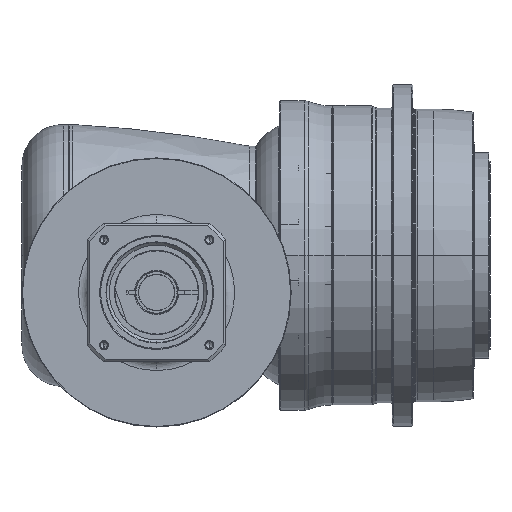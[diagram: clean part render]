
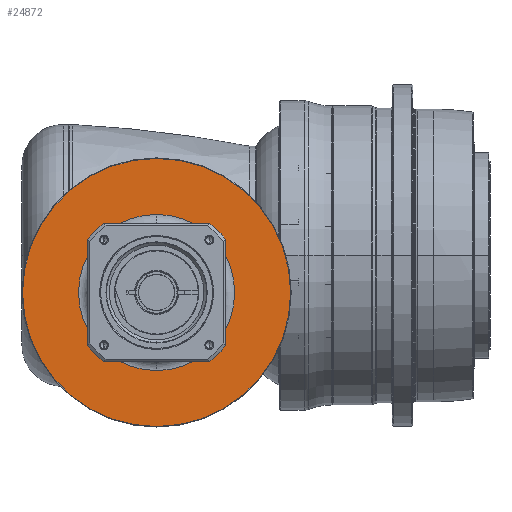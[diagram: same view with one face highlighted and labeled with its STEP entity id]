
A CAD part, front view. The second image highlights one B-rep face of the part: STEP entity #24872.
In plain terms, the highlighted planar face has unit normal (0, -1, 0) as drawn and (1, 0, 0) by its records, which use the part's own axes.
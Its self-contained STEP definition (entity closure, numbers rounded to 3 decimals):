
#22940=CARTESIAN_POINT('',(-11.5,0.,0.));
#22941=DIRECTION('',(-1.,0.,0.));
#22942=DIRECTION('',(0.,-1.,0.));
#22943=AXIS2_PLACEMENT_3D('',#22940,#22941,#22942);
#22945=CARTESIAN_POINT('',(-11.5,0.,0.));
#22946=DIRECTION('',(-1.,0.,0.));
#22947=DIRECTION('',(0.,1.,0.));
#22948=AXIS2_PLACEMENT_3D('',#22945,#22946,#22947);
#22950=CARTESIAN_POINT('',(-11.5,0.,0.));
#22951=DIRECTION('',(-1.,0.,0.));
#22952=DIRECTION('',(0.,-1.,0.));
#22953=AXIS2_PLACEMENT_3D('',#22950,#22951,#22952);
#22955=CARTESIAN_POINT('',(-11.5,0.,0.));
#22956=DIRECTION('',(-1.,0.,0.));
#22957=DIRECTION('',(0.,1.,0.));
#22958=AXIS2_PLACEMENT_3D('',#22955,#22956,#22957);
#23559=CARTESIAN_POINT('',(-11.5,-130.5,0.));
#23560=CARTESIAN_POINT('',(-11.5,130.5,0.));
#23561=VERTEX_POINT('',#23559);
#23562=VERTEX_POINT('',#23560);
#23599=CARTESIAN_POINT('',(-11.5,-76.,0.));
#23600=CARTESIAN_POINT('',(-11.5,76.,0.));
#23601=VERTEX_POINT('',#23599);
#23602=VERTEX_POINT('',#23600);
#24857=CARTESIAN_POINT('',(-11.5,0.,0.));
#24858=DIRECTION('',(1.,0.,0.));
#24859=DIRECTION('',(0.,-1.,0.));
#24860=AXIS2_PLACEMENT_3D('',#24857,#24858,#24859);
#24861=PLANE('',#24860);
#24862=ORIENTED_EDGE('',*,*,#24813,.T.);
#24863=ORIENTED_EDGE('',*,*,#24798,.T.);
#24864=EDGE_LOOP('',(#24862,#24863));
#24865=FACE_OUTER_BOUND('',#24864,.F.);
#24867=ORIENTED_EDGE('',*,*,#24866,.F.);
#24869=ORIENTED_EDGE('',*,*,#24868,.F.);
#24870=EDGE_LOOP('',(#24867,#24869));
#24871=FACE_BOUND('',#24870,.F.);
#24872=ADVANCED_FACE('',(#24865,#24871),#24861,.T.);
#22944=CIRCLE('',#22943,76.);
#22949=CIRCLE('',#22948,76.);
#22954=CIRCLE('',#22953,130.5);
#22959=CIRCLE('',#22958,130.5);
#24798=EDGE_CURVE('',#23562,#23561,#22959,.T.);
#24813=EDGE_CURVE('',#23561,#23562,#22954,.T.);
#24866=EDGE_CURVE('',#23601,#23602,#22944,.T.);
#24868=EDGE_CURVE('',#23602,#23601,#22949,.T.);
